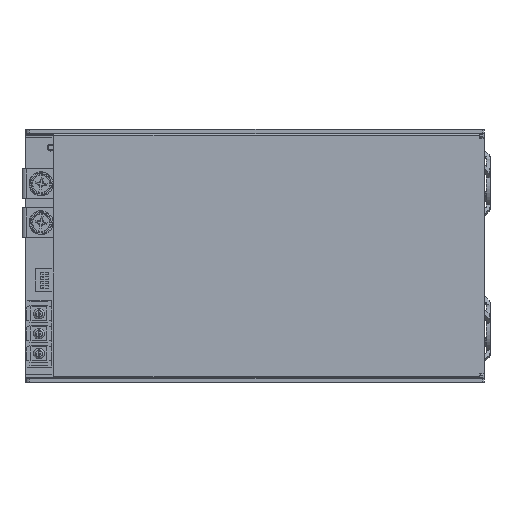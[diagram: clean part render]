
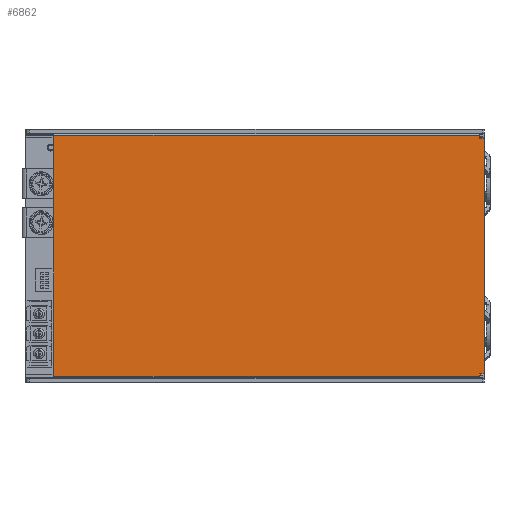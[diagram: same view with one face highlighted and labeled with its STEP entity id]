
A CAD part, top view. The second image highlights one B-rep face of the part: STEP entity #6862.
In plain terms, the highlighted planar face has unit normal (0, 0, 1).
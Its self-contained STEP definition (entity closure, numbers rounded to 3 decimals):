
#5524=DIRECTION('',(-1.,0.,0.));
#5525=VECTOR('',#5524,213.7);
#5526=CARTESIAN_POINT('',(260.778,164.358,42.5));
#5527=LINE('',#5526,#5525);
#5642=CARTESIAN_POINT('',(262.578,45.158,42.5));
#5643=DIRECTION('',(0.,0.,-1.));
#5644=DIRECTION('',(1.,0.,0.));
#5645=AXIS2_PLACEMENT_3D('',#5642,#5643,#5644);
#5647=DIRECTION('',(-1.,0.,0.));
#5648=VECTOR('',#5647,1.8);
#5649=CARTESIAN_POINT('',(262.578,44.658,42.5));
#5650=LINE('',#5649,#5648);
#5651=DIRECTION('',(0.,-1.,0.));
#5652=VECTOR('',#5651,1.3);
#5653=CARTESIAN_POINT('',(260.778,44.658,42.5));
#5654=LINE('',#5653,#5652);
#5655=DIRECTION('',(0.,1.,0.));
#5656=VECTOR('',#5655,121.);
#5657=CARTESIAN_POINT('',(47.078,43.358,42.5));
#5658=LINE('',#5657,#5656);
#5659=DIRECTION('',(0.,-1.,0.));
#5660=VECTOR('',#5659,1.3);
#5661=CARTESIAN_POINT('',(260.778,164.358,42.5));
#5662=LINE('',#5661,#5660);
#5663=DIRECTION('',(1.,0.,0.));
#5664=VECTOR('',#5663,1.8);
#5665=CARTESIAN_POINT('',(260.778,163.058,42.5));
#5666=LINE('',#5665,#5664);
#5667=CARTESIAN_POINT('',(262.578,162.558,42.5));
#5668=DIRECTION('',(0.,0.,-1.));
#5669=DIRECTION('',(0.,1.,0.));
#5670=AXIS2_PLACEMENT_3D('',#5667,#5668,#5669);
#5672=DIRECTION('',(0.,-1.,0.));
#5673=VECTOR('',#5672,117.4);
#5674=CARTESIAN_POINT('',(263.078,162.558,42.5));
#5675=LINE('',#5674,#5673);
#6042=DIRECTION('',(1.,0.,0.));
#6043=VECTOR('',#6042,213.7);
#6044=CARTESIAN_POINT('',(47.078,43.358,42.5));
#6045=LINE('',#6044,#6043);
#6472=CARTESIAN_POINT('',(260.778,164.358,42.5));
#6473=VERTEX_POINT('',#6472);
#6474=CARTESIAN_POINT('',(47.078,164.358,42.5));
#6475=VERTEX_POINT('',#6474);
#6516=CARTESIAN_POINT('',(47.078,43.358,42.5));
#6517=VERTEX_POINT('',#6516);
#6520=CARTESIAN_POINT('',(263.078,45.158,42.5));
#6521=CARTESIAN_POINT('',(262.578,44.658,42.5));
#6522=VERTEX_POINT('',#6520);
#6523=VERTEX_POINT('',#6521);
#6524=CARTESIAN_POINT('',(260.778,44.658,42.5));
#6525=VERTEX_POINT('',#6524);
#6526=CARTESIAN_POINT('',(260.778,43.358,42.5));
#6527=VERTEX_POINT('',#6526);
#6528=CARTESIAN_POINT('',(260.778,163.058,42.5));
#6529=VERTEX_POINT('',#6528);
#6530=CARTESIAN_POINT('',(262.578,163.058,42.5));
#6531=VERTEX_POINT('',#6530);
#6532=CARTESIAN_POINT('',(263.078,162.558,42.5));
#6533=VERTEX_POINT('',#6532);
#6837=CARTESIAN_POINT('',(0.,0.,42.5));
#6838=DIRECTION('',(0.,0.,1.));
#6839=DIRECTION('',(1.,0.,0.));
#6840=AXIS2_PLACEMENT_3D('',#6837,#6838,#6839);
#6841=PLANE('',#6840);
#6843=ORIENTED_EDGE('',*,*,#6842,.T.);
#6845=ORIENTED_EDGE('',*,*,#6844,.T.);
#6847=ORIENTED_EDGE('',*,*,#6846,.T.);
#6849=ORIENTED_EDGE('',*,*,#6848,.F.);
#6850=ORIENTED_EDGE('',*,*,#6827,.T.);
#6851=ORIENTED_EDGE('',*,*,#6725,.F.);
#6853=ORIENTED_EDGE('',*,*,#6852,.T.);
#6855=ORIENTED_EDGE('',*,*,#6854,.T.);
#6857=ORIENTED_EDGE('',*,*,#6856,.T.);
#6859=ORIENTED_EDGE('',*,*,#6858,.T.);
#6860=EDGE_LOOP('',(#6843,#6845,#6847,#6849,#6850,#6851,#6853,#6855,#6857,
#6859));
#6861=FACE_OUTER_BOUND('',#6860,.F.);
#5646=CIRCLE('',#5645,0.5);
#5671=CIRCLE('',#5670,0.5);
#6725=EDGE_CURVE('',#6473,#6475,#5527,.T.);
#6827=EDGE_CURVE('',#6517,#6475,#5658,.T.);
#6842=EDGE_CURVE('',#6522,#6523,#5646,.T.);
#6844=EDGE_CURVE('',#6523,#6525,#5650,.T.);
#6846=EDGE_CURVE('',#6525,#6527,#5654,.T.);
#6848=EDGE_CURVE('',#6517,#6527,#6045,.T.);
#6852=EDGE_CURVE('',#6473,#6529,#5662,.T.);
#6854=EDGE_CURVE('',#6529,#6531,#5666,.T.);
#6856=EDGE_CURVE('',#6531,#6533,#5671,.T.);
#6858=EDGE_CURVE('',#6533,#6522,#5675,.T.);
#6862=ADVANCED_FACE('',(#6861),#6841,.T.);
